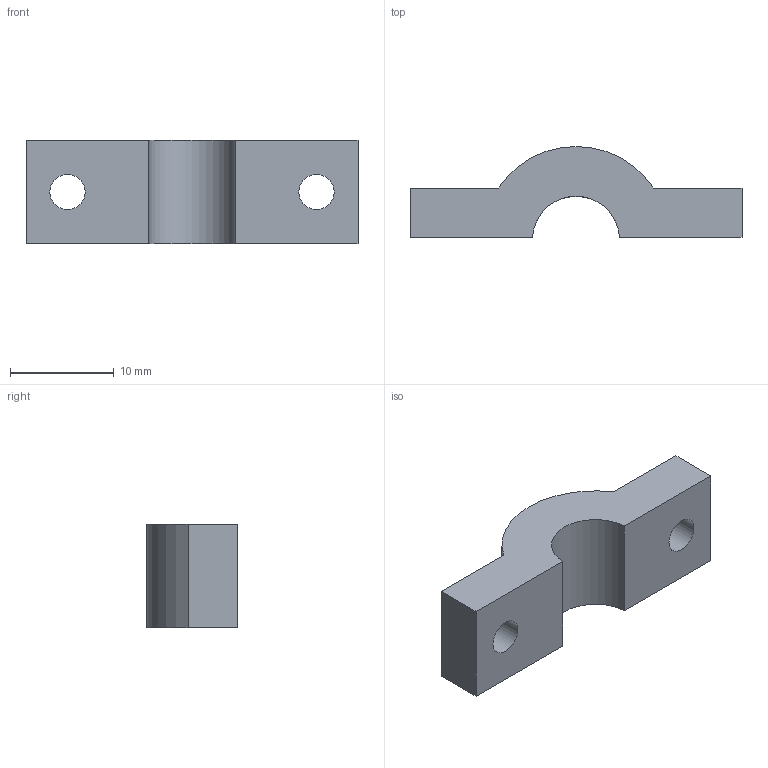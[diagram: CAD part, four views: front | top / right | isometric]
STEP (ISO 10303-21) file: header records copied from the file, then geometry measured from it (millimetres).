
FILE_DESCRIPTION(('Open CASCADE Model'),'2;1');
FILE_NAME('Open CASCADE Shape Model','2026-10-21T16:54:04',('Author'),( 'Open CASCADE'),'Open CASCADE STEP processor 7.9','Open CASCADE 7.9' ,'Unknown');
FILE_SCHEMA(('AUTOMOTIVE_DESIGN { 1 0 10303 214 1 1 1 1 }'));
Length unit declared in the file: millimetre
Products named in the file (1): Open CASCADE STEP translator 7.9 65
Bounding box: 32 x 8.75 x 10 mm (x, y, z)
Volume: 1598.7 mm3; surface area: 1207.3 mm2
Topology: 1 solids, 1 shells, 12 faces, 30 edges, 20 vertices
Faces by surface type: plane 8, cylinder 4
Full cylindrical faces by diameter (mm): 3.4 x2
Entity records: 776 total; most frequent: CARTESIAN_POINT 135, DIRECTION 122, LINE 74, VECTOR 74, ORIENTED_EDGE 60, PCURVE 60, DEFINITIONAL_REPRESENTATION 60, EDGE_CURVE 30
